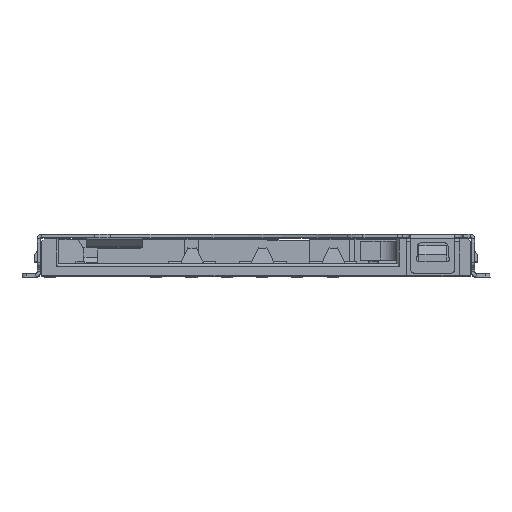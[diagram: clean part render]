
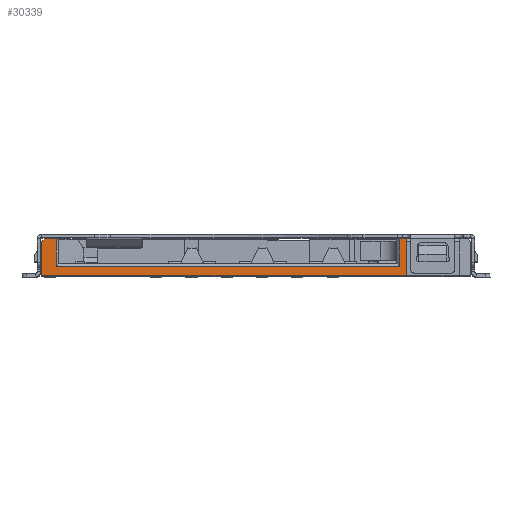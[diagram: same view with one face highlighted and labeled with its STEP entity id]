
A CAD part, top view. The second image highlights one B-rep face of the part: STEP entity #30339.
In plain terms, the highlighted planar face has unit normal (0, 0, 1).
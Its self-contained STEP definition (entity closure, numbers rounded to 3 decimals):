
#2404=DIRECTION('',(0.707,0.707,0.));
#2405=VECTOR('',#2404,0.141);
#2406=CARTESIAN_POINT('',(-6.25,0.844,25.915));
#2407=LINE('',#2406,#2405);
#2408=DIRECTION('',(1.,0.,0.));
#2409=VECTOR('',#2408,0.42);
#2410=CARTESIAN_POINT('',(-6.15,0.944,25.915));
#2411=LINE('',#2410,#2409);
#2412=DIRECTION('',(0.,-1.,0.));
#2413=VECTOR('',#2412,1.);
#2414=CARTESIAN_POINT('',(-5.73,0.944,25.915));
#2415=LINE('',#2414,#2413);
#2416=DIRECTION('',(0.,-1.,0.));
#2417=VECTOR('',#2416,1.33);
#2418=CARTESIAN_POINT('',(6.87,0.944,25.915));
#2419=LINE('',#2418,#2417);
#2420=DIRECTION('',(-1.,0.,0.));
#2421=VECTOR('',#2420,13.12);
#2422=CARTESIAN_POINT('',(6.87,-0.386,25.915));
#2423=LINE('',#2422,#2421);
#2428=DIRECTION('',(0.,-1.,0.));
#2429=VECTOR('',#2428,1.23);
#2430=CARTESIAN_POINT('',(-6.25,0.844,25.915));
#2431=LINE('',#2430,#2429);
#3278=DIRECTION('',(-1.,0.,0.));
#3279=VECTOR('',#3278,0.25);
#3280=CARTESIAN_POINT('',(6.87,0.944,25.915));
#3281=LINE('',#3280,#3279);
#10184=DIRECTION('',(-1.,0.,0.));
#10185=VECTOR('',#10184,12.35);
#10186=CARTESIAN_POINT('',(6.62,-0.056,25.915));
#10187=LINE('',#10186,#10185);
#10192=DIRECTION('',(0.,-1.,0.));
#10193=VECTOR('',#10192,1.);
#10194=CARTESIAN_POINT('',(6.62,0.944,25.915));
#10195=LINE('',#10194,#10193);
#23272=CARTESIAN_POINT('',(6.87,0.944,25.915));
#23273=CARTESIAN_POINT('',(6.87,-0.386,25.915));
#23274=VERTEX_POINT('',#23272);
#23275=VERTEX_POINT('',#23273);
#23278=CARTESIAN_POINT('',(-6.25,0.844,25.915));
#23279=CARTESIAN_POINT('',(-6.25,-0.386,25.915));
#23280=VERTEX_POINT('',#23278);
#23281=VERTEX_POINT('',#23279);
#23282=CARTESIAN_POINT('',(-6.15,0.944,25.915));
#23283=VERTEX_POINT('',#23282);
#23284=CARTESIAN_POINT('',(-5.73,0.944,25.915));
#23285=VERTEX_POINT('',#23284);
#23286=CARTESIAN_POINT('',(-5.73,-0.056,25.915));
#23287=VERTEX_POINT('',#23286);
#23288=CARTESIAN_POINT('',(6.62,-0.056,25.915));
#23289=VERTEX_POINT('',#23288);
#23290=CARTESIAN_POINT('',(6.62,0.944,25.915));
#23291=VERTEX_POINT('',#23290);
#30315=CARTESIAN_POINT('',(-0.84,-0.176,25.915));
#30316=DIRECTION('',(0.,0.,1.));
#30317=DIRECTION('',(1.,0.,0.));
#30318=AXIS2_PLACEMENT_3D('',#30315,#30316,#30317);
#30319=PLANE('',#30318);
#30321=ORIENTED_EDGE('',*,*,#30320,.F.);
#30323=ORIENTED_EDGE('',*,*,#30322,.T.);
#30325=ORIENTED_EDGE('',*,*,#30324,.T.);
#30327=ORIENTED_EDGE('',*,*,#30326,.T.);
#30329=ORIENTED_EDGE('',*,*,#30328,.F.);
#30331=ORIENTED_EDGE('',*,*,#30330,.F.);
#30333=ORIENTED_EDGE('',*,*,#30332,.F.);
#30334=ORIENTED_EDGE('',*,*,#30303,.T.);
#30336=ORIENTED_EDGE('',*,*,#30335,.T.);
#30337=EDGE_LOOP('',(#30321,#30323,#30325,#30327,#30329,#30331,#30333,#30334,
#30336));
#30338=FACE_OUTER_BOUND('',#30337,.F.);
#30339=ADVANCED_FACE('',(#30338),#30319,.T.);
#30303=EDGE_CURVE('',#23274,#23275,#2419,.T.);
#30320=EDGE_CURVE('',#23280,#23281,#2431,.T.);
#30322=EDGE_CURVE('',#23280,#23283,#2407,.T.);
#30324=EDGE_CURVE('',#23283,#23285,#2411,.T.);
#30326=EDGE_CURVE('',#23285,#23287,#2415,.T.);
#30328=EDGE_CURVE('',#23289,#23287,#10187,.T.);
#30330=EDGE_CURVE('',#23291,#23289,#10195,.T.);
#30332=EDGE_CURVE('',#23274,#23291,#3281,.T.);
#30335=EDGE_CURVE('',#23275,#23281,#2423,.T.);
